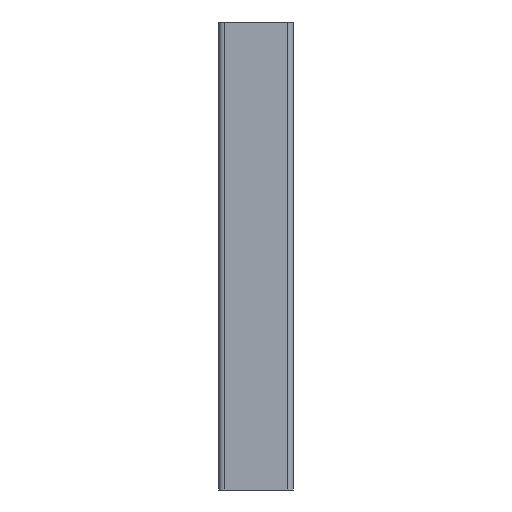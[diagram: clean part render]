
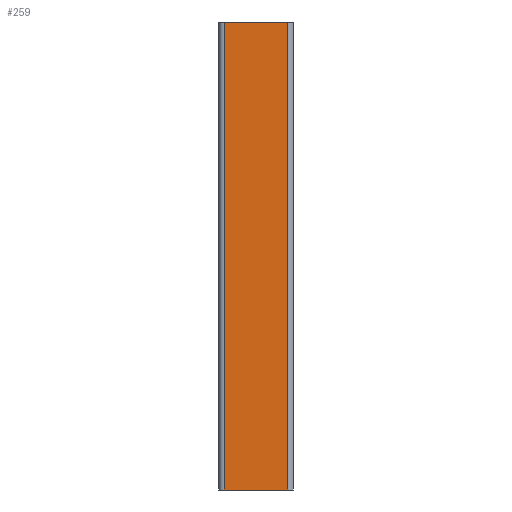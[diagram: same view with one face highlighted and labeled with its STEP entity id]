
A CAD part, left-side view. The second image highlights one B-rep face of the part: STEP entity #259.
In plain terms, the highlighted planar face has unit normal (-1, 0, 0).
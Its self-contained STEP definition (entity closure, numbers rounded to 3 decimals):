
#3 = ORIENTED_EDGE ( 'NONE', *, *, #852, .T. ) ;
#10 = ORIENTED_EDGE ( 'NONE', *, *, #639, .F. ) ;
#14 = ORIENTED_EDGE ( 'NONE', *, *, #1260, .F. ) ;
#31 = ORIENTED_EDGE ( 'NONE', *, *, #648, .T. ) ;
#74 = CARTESIAN_POINT ( 'NONE',  ( -15.33, -13.356, 200. ) ) ;
#81 = AXIS2_PLACEMENT_3D ( 'NONE', #2102, #2075, #2073 ) ;
#180 = VERTEX_POINT ( 'NONE', #2250 ) ;
#259 = ADVANCED_FACE ( 'NONE', ( #1961 ), #1914, .F. ) ;
#473 = CARTESIAN_POINT ( 'NONE',  ( -15.33, 13.644, 0. ) ) ;
#496 = VERTEX_POINT ( 'NONE', #1177 ) ;
#575 = VERTEX_POINT ( 'NONE', #473 ) ;
#639 = EDGE_CURVE ( 'NONE', #1775, #180, #1453, .T. ) ;
#648 = EDGE_CURVE ( 'NONE', #496, #575, #1471, .T. ) ;
#703 = DIRECTION ( 'NONE',  ( 0., 0., -1. ) ) ;
#711 = CARTESIAN_POINT ( 'NONE',  ( -15.33, -13.356, 200. ) ) ;
#743 = CARTESIAN_POINT ( 'NONE',  ( -15.33, 13.644, 200. ) ) ;
#774 = DIRECTION ( 'NONE',  ( 0., 0., -1. ) ) ;
#835 = VECTOR ( 'NONE', #1890, 1000. ) ;
#848 = LINE ( 'NONE', #1894, #835 ) ;
#852 = EDGE_CURVE ( 'NONE', #575, #180, #1198, .T. ) ;
#1177 = CARTESIAN_POINT ( 'NONE',  ( -15.33, 13.644, 200. ) ) ;
#1193 = VECTOR ( 'NONE', #1648, 1000. ) ;
#1198 = LINE ( 'NONE', #1521, #1193 ) ;
#1260 = EDGE_CURVE ( 'NONE', #496, #1775, #848, .T. ) ;
#1414 = VECTOR ( 'NONE', #774, 1000. ) ;
#1439 = VECTOR ( 'NONE', #703, 1000. ) ;
#1453 = LINE ( 'NONE', #711, #1439 ) ;
#1471 = LINE ( 'NONE', #743, #1414 ) ;
#1521 = CARTESIAN_POINT ( 'NONE',  ( -15.33, 13.644, 0. ) ) ;
#1648 = DIRECTION ( 'NONE',  ( 0., -1., 0. ) ) ;
#1698 = EDGE_LOOP ( 'NONE', ( #3, #10, #14, #31 ) ) ;
#1775 = VERTEX_POINT ( 'NONE', #74 ) ;
#1890 = DIRECTION ( 'NONE',  ( 0., -1., 0. ) ) ;
#1894 = CARTESIAN_POINT ( 'NONE',  ( -15.33, 13.644, 200. ) ) ;
#1914 = PLANE ( 'NONE',  #81 ) ;
#1961 = FACE_OUTER_BOUND ( 'NONE', #1698, .T. ) ;
#2073 = DIRECTION ( 'NONE',  ( 0., 0., -1. ) ) ;
#2075 = DIRECTION ( 'NONE',  ( 1., 0., 0. ) ) ;
#2102 = CARTESIAN_POINT ( 'NONE',  ( -15.33, 13.644, 200. ) ) ;
#2250 = CARTESIAN_POINT ( 'NONE',  ( -15.33, -13.356, 0. ) ) ;
